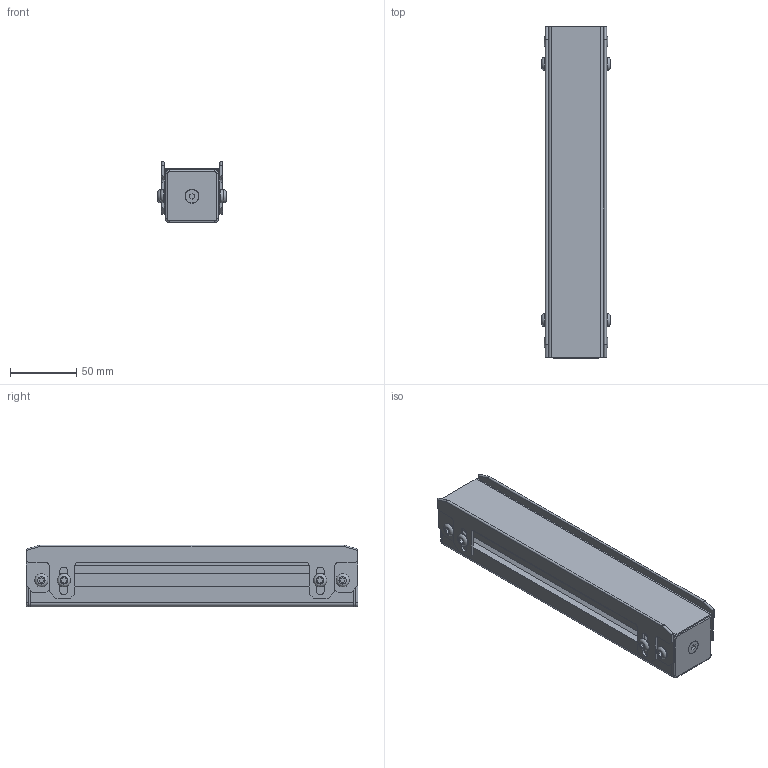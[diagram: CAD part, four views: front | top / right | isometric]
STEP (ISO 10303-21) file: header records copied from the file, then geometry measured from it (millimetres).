
FILE_DESCRIPTION(/* description */ (''),/* implementation_level */ '2;1');
FILE_NAME(/* name */ 'MGSS-FA-4040x250H.step',/* time_stamp */ '2022-12-15T12:56:04+09:00',/* author */ (''),/* organization */ (''),/* preprocessor_version */ 'ST-DEVELOPER v19.2',/* originating_system */ 'Autodesk Translation Framework v11.17.0.187',/* authorisation */ '');
FILE_SCHEMA (('AUTOMOTIVE_DESIGN { 1 0 10303 214 3 1 1 }'));
Length unit declared in the file: millimetre
Products named in the file (1): MGSS-FA-4040x250H
Bounding box: 51.6 x 250 x 46.5 mm (x, y, z)
Volume: 199674.7 mm3; surface area: 174145.4 mm2
Topology: 16 solids, 16 shells, 352 faces, 928 edges, 610 vertices
Faces by surface type: plane 236, cylinder 88, bspline 8, torus 8, sphere 8, cone 4
Full cylindrical faces by diameter (mm): 5 x2, 6 x4, 10 x8
Entity records: 10996 total; most frequent: CARTESIAN_POINT 1955, ORIENTED_EDGE 1856, DIRECTION 1844, EDGE_CURVE 928, LINE 702, VECTOR 702, VERTEX_POINT 610, AXIS2_PLACEMENT_3D 571
